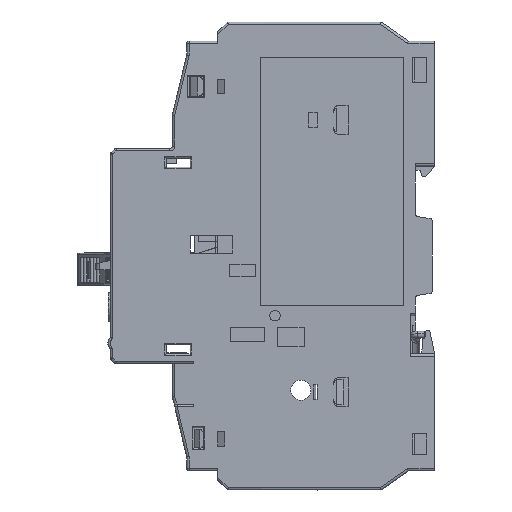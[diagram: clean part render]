
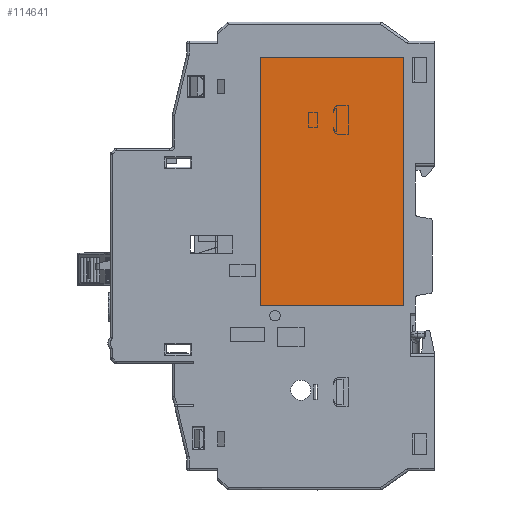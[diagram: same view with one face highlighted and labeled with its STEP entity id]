
A CAD part, left-side view. The second image highlights one B-rep face of the part: STEP entity #114641.
In plain terms, the highlighted planar face has unit normal (-1, 0, 0).
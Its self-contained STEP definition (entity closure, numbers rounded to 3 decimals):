
#44889=DIRECTION('',(0.,0.,1.));
#44890=VECTOR('',#44889,52.);
#44891=CARTESIAN_POINT('',(-0.1,6.5,-70.444));
#44892=LINE('',#44891,#44890);
#44897=DIRECTION('',(0.,-1.,0.));
#44898=VECTOR('',#44897,30.);
#44899=CARTESIAN_POINT('',(-0.1,36.5,-70.444));
#44900=LINE('',#44899,#44898);
#44905=DIRECTION('',(0.,0.,-1.));
#44906=VECTOR('',#44905,52.);
#44907=CARTESIAN_POINT('',(-0.1,36.5,-18.444));
#44908=LINE('',#44907,#44906);
#44913=DIRECTION('',(0.,1.,0.));
#44914=VECTOR('',#44913,30.);
#44915=CARTESIAN_POINT('',(-0.1,6.5,-18.444));
#44916=LINE('',#44915,#44914);
#56909=CARTESIAN_POINT('',(-0.1,6.5,-70.444));
#56910=CARTESIAN_POINT('',(-0.1,6.5,-18.444));
#56911=VERTEX_POINT('',#56909);
#56912=VERTEX_POINT('',#56910);
#56913=CARTESIAN_POINT('',(-0.1,36.5,-70.444));
#56914=VERTEX_POINT('',#56913);
#56915=CARTESIAN_POINT('',(-0.1,36.5,-18.444));
#56916=VERTEX_POINT('',#56915);
#114630=CARTESIAN_POINT('',(-0.1,21.5,-44.444));
#114631=DIRECTION('',(1.,0.,0.));
#114632=DIRECTION('',(0.,1.,0.));
#114633=AXIS2_PLACEMENT_3D('',#114630,#114631,#114632);
#114634=PLANE('',#114633);
#114635=ORIENTED_EDGE('',*,*,#114582,.F.);
#114636=ORIENTED_EDGE('',*,*,#114597,.F.);
#114637=ORIENTED_EDGE('',*,*,#114611,.F.);
#114638=ORIENTED_EDGE('',*,*,#114624,.F.);
#114639=EDGE_LOOP('',(#114635,#114636,#114637,#114638));
#114640=FACE_OUTER_BOUND('',#114639,.F.);
#114641=ADVANCED_FACE('',(#114640),#114634,.F.);
#114582=EDGE_CURVE('',#56911,#56912,#44892,.T.);
#114597=EDGE_CURVE('',#56914,#56911,#44900,.T.);
#114611=EDGE_CURVE('',#56916,#56914,#44908,.T.);
#114624=EDGE_CURVE('',#56912,#56916,#44916,.T.);
